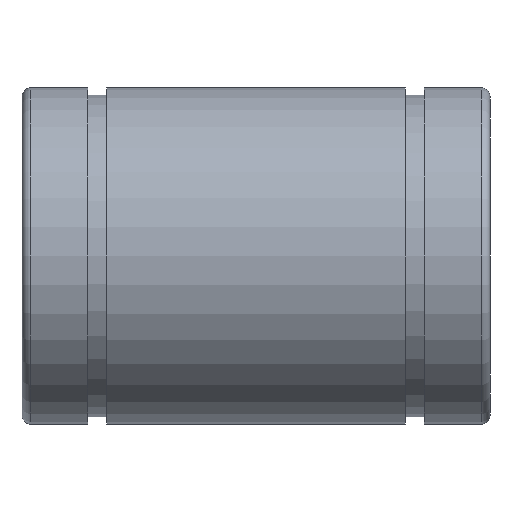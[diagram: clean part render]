
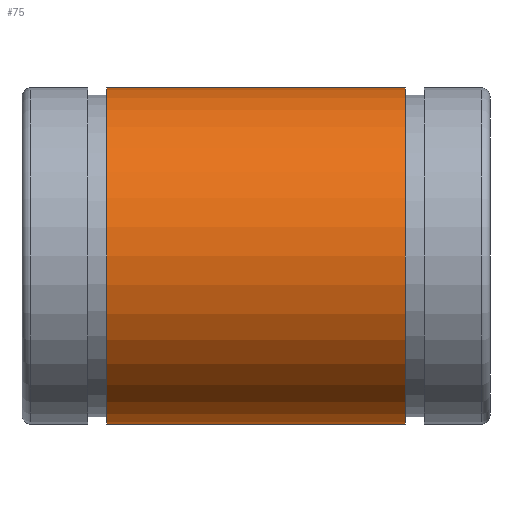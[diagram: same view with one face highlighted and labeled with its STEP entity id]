
A CAD part, front view. The second image highlights one B-rep face of the part: STEP entity #75.
In plain terms, the highlighted cylindrical face has radius 11.5 mm (diameter 23 mm), a full revolution.
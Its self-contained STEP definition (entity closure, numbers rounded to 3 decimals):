
#75=ADVANCED_FACE('',(#90,#91),#92,.T.);
#90=FACE_OUTER_BOUND('',#132,.T.);
#91=FACE_OUTER_BOUND('',#133,.T.);
#92=CYLINDRICAL_SURFACE('',#134,11.5);
#132=EDGE_LOOP('',(#174));
#133=EDGE_LOOP('',(#175));
#134=AXIS2_PLACEMENT_3D('',#176,#177,#178);
#174=ORIENTED_EDGE('',*,*,#244,.F.);
#175=ORIENTED_EDGE('',*,*,#245,.F.);
#176=CARTESIAN_POINT('',(0.0,0.0,0.0));
#177=DIRECTION('',(-1.0,-0.0,-0.0));
#178=DIRECTION('',(0.0,1.0,0.0));
#244=EDGE_CURVE('',#258,#258,#259,.T.);
#245=EDGE_CURVE('',#260,#260,#261,.T.);
#258=VERTEX_POINT('',#286);
#259=CIRCLE('',#287,11.5);
#260=VERTEX_POINT('',#288);
#261=CIRCLE('',#289,11.5);
#286=CARTESIAN_POINT('',(-10.2,-11.5,0.0));
#287=AXIS2_PLACEMENT_3D('',#314,#315,#316);
#288=CARTESIAN_POINT('',(10.2,11.5,0.0));
#289=AXIS2_PLACEMENT_3D('',#317,#318,#319);
#314=CARTESIAN_POINT('',(-10.2,0.,0.0));
#315=DIRECTION('',(-1.0,0.0,0.0));
#316=DIRECTION('',(0.0,-1.0,0.0));
#317=CARTESIAN_POINT('',(10.2,0.,0.0));
#318=DIRECTION('',(1.0,0.0,0.0));
#319=DIRECTION('',(0.0,1.0,0.0));
